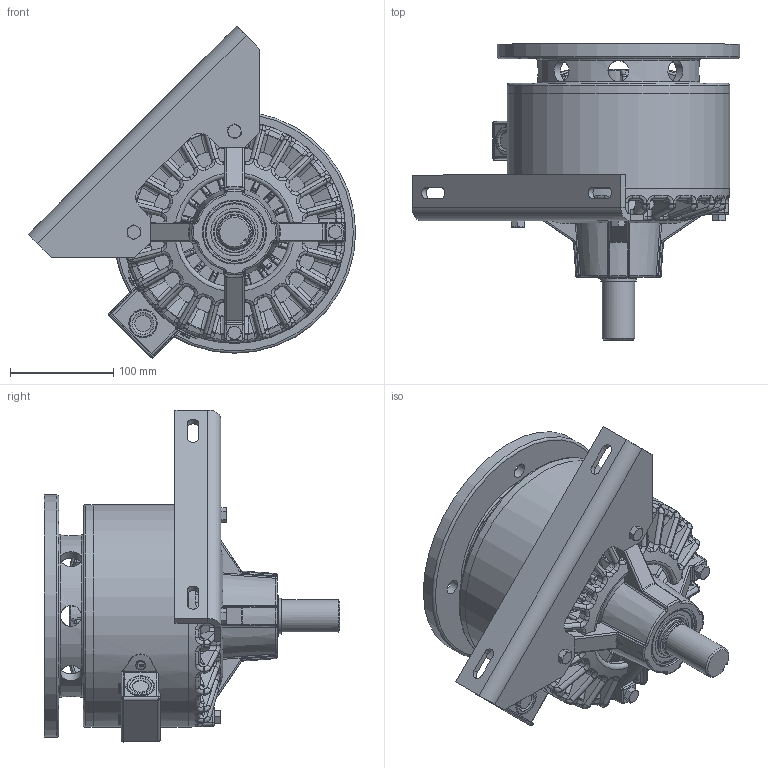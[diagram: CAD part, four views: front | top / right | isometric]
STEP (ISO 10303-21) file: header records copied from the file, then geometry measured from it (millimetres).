
FILE_DESCRIPTION(/* description */ ('STEP AP214'),/* implementation_level */ '2;1');
FILE_NAME(/* name */ '50MC90F22_stp.step',/* time_stamp */ '2026-05-13T10:41:54-05:00',/* author */ (''),/* organization */ (''),/* preprocessor_version */ 'ST-DEVELOPER v20.1',/* originating_system */ 'Autodesk Translation Framework v15.8.0.0',/* authorisation */ '');
FILE_SCHEMA (('AUTOMOTIVE_DESIGN { 1 0 10303 214 3 1 1 }'));
Products named in the file (1): 50MC90F22_asm_stp
Bounding box: 317.29 x 286.94 x 321.86 mm (x, y, z)
Volume: 3715683.9 mm3; surface area: 735884.9 mm2
Topology: 5 solids, 14 shells, 2315 faces, 5819 edges, 3481 vertices
Faces by surface type: bspline 698, cylinder 604, plane 443, torus 284, cone 166, sphere 120
Full cylindrical faces by diameter (mm): 3.795 x4, 4.039 x4, 5.105 x2, 6.35 x4, 6.528 x4, 7.938 x4, 8.712 x2, 9.474 x4, 9.525 x4, 9.576 x4, 12.7 x1, 14.287 x4, 17.475 x1, 20.32 x8, 22.225 x3, 25.4 x1, 31.674 x1, 33.401 x2, 34.138 x1, 34.884 x2, 34.999 x2, 35 x1, 40.4 x4, 52.4 x1, 53.975 x1, 54.71 x2, 56.6 x4, 61.9 x1, 61.985 x2, 66.726 x1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
Entity records: 107668 total; most frequent: CARTESIAN_POINT 56558, ORIENTED_EDGE 11508, DIRECTION 9965, EDGE_CURVE 5754, AXIS2_PLACEMENT_3D 4249, VERTEX_POINT 3489, CIRCLE 2516, EDGE_LOOP 2477
